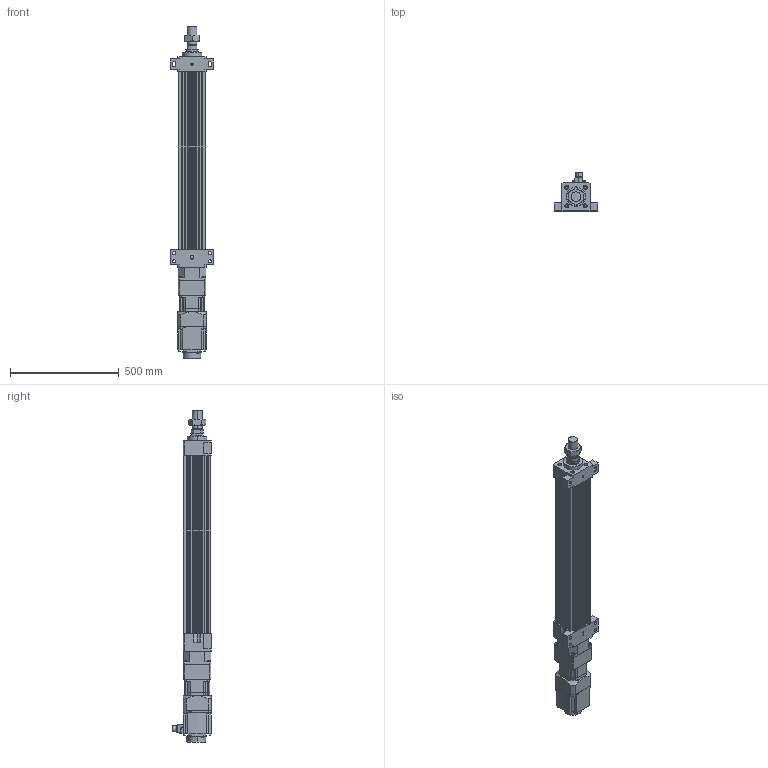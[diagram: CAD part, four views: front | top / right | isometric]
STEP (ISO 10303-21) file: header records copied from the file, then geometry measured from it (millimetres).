
FILE_DESCRIPTION (( 'STEP AP203' ), '1' );
FILE_NAME ('HES130NS(FS)(HS)-S600-W015G00-M-FFB.STEP', '2023-01-30T09:23:48', ( 'tms' ), ( '' ), 'SwSTEP 2.0', 'SolidWorks 2013', '' );
FILE_SCHEMA (( 'CONFIG_CONTROL_DESIGN' ));
Length unit declared in the file: millimetre
Products named in the file (8): AB115-003[HG-SR152]; HG-SR152; HES130-S600-G120-FFB; AB1151; HES130NS(FS)(HS)-S600-W015G00-M-FFB; HES130 ROD M ST600; P0401400706; M45X1.5P
Assembly tree (7 placements, depth 3):
  HES130NS(FS)(HS)-S600-W015G00-M-FFB
    HES130-S600-G120-FFB
    HES130 ROD M ST600
    M45X1.5P
    AB115-003[HG-SR152]
      AB1151
      P0401400706
    HG-SR152
Bounding box: 200 x 177.49 x 1529.5 mm (x, y, z)
Volume: 12243091.8 mm3; surface area: 1602950.8 mm2
Topology: 4 solids, 15 shells, 1211 faces, 3070 edges, 1998 vertices
Faces by surface type: plane 571, cylinder 546, cone 82, bspline 8, torus 4
Entity records: 38310 total; most frequent: CARTESIAN_POINT 7264, DIRECTION 6633, ORIENTED_EDGE 6092, EDGE_CURVE 3056, AXIS2_PLACEMENT_3D 2435, VERTEX_POINT 1998, LINE 1763, VECTOR 1763
